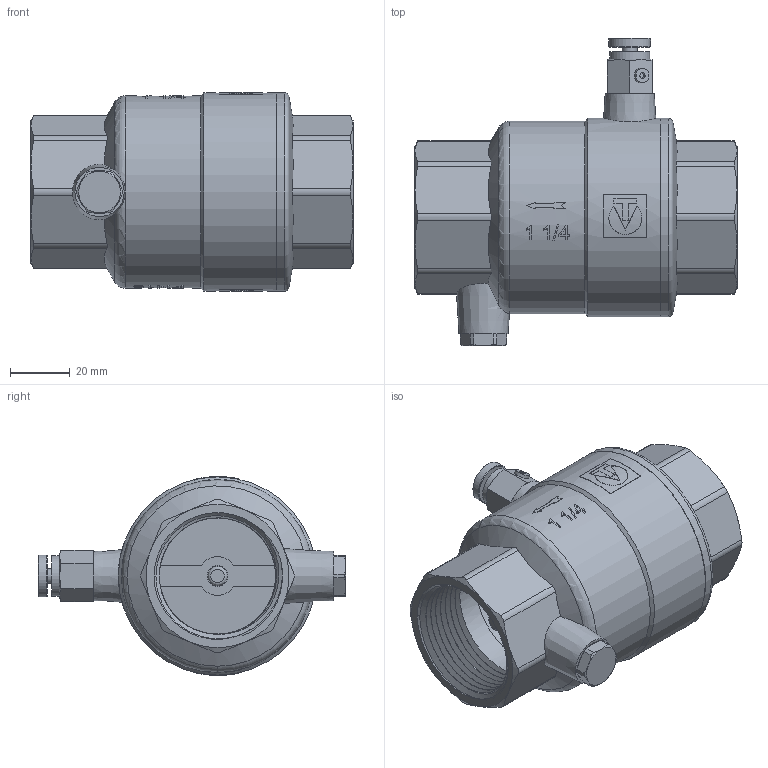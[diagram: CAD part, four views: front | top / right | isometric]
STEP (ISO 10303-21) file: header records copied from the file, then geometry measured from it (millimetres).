
FILE_DESCRIPTION(/* description */ (''),/* implementation_level */ '2;1');
FILE_NAME(/* name */ 'F:\Артём\00000\Работа удаленка\═╝╓╜\VT.171\VT.171.N.07.stp',/* time_stamp */ '2021-04-01T15:21:25+03:00',/* author */ ('almis'),/* organization */ (''),/* preprocessor_version */ 'ST-DEVELOPER v18',/* originating_system */ 'Autodesk Inventor 2020',/* authorisation */ '');
FILE_SCHEMA (('AUTOMOTIVE_DESIGN { 1 0 10303 214 3 1 1 }'));
Length unit declared in the file: millimetre
Products named in the file (1): Деталь1
Bounding box: 108 x 103.1 x 66.7 mm (x, y, z)
Volume: 126241.6 mm3; surface area: 70038.6 mm2
Topology: 2 solids, 4 shells, 438 faces, 1211 edges, 805 vertices
Faces by surface type: plane 207, cylinder 141, cone 45, bspline 36, torus 9
Full cylindrical faces by diameter (mm): 2 x1, 5 x4, 6 x1, 6.5 x2, 7 x2, 11 x1, 11.5 x8, 13.5 x1, 14 x1, 14.1 x8, 14.139 x1, 15.136 x1, 37 x1, 39 x14, 41 x1, 43.6 x18, 47 x1, 50.5 x1, 54.5 x1, 54.7 x1, 59.1 x1, 59.5 x1, 61.5 x2, 64.5 x1, 66.3 x1, 66.5 x2
Entity records: 23906 total; most frequent: CARTESIAN_POINT 13128, ORIENTED_EDGE 2424, DIRECTION 2041, EDGE_CURVE 1212, VERTEX_POINT 806, AXIS2_PLACEMENT_3D 785, EDGE_LOOP 488, LINE 471
